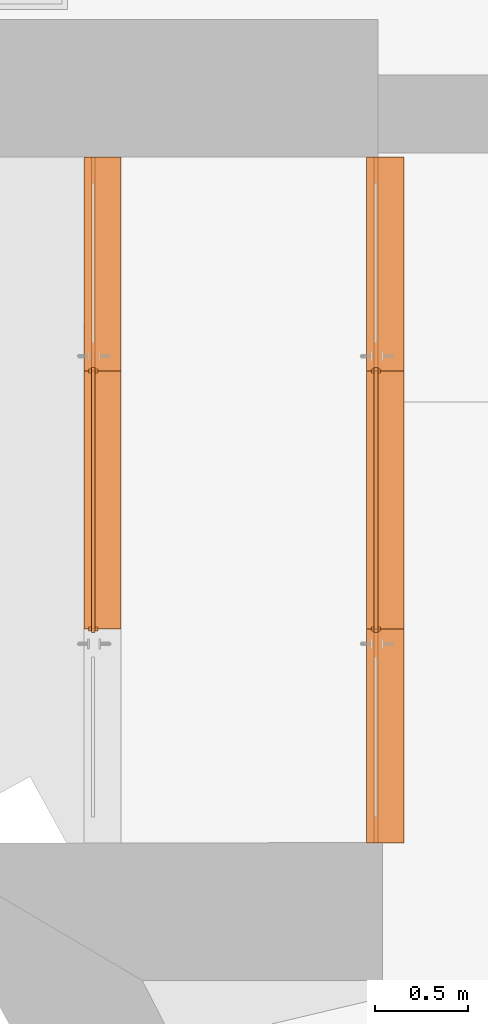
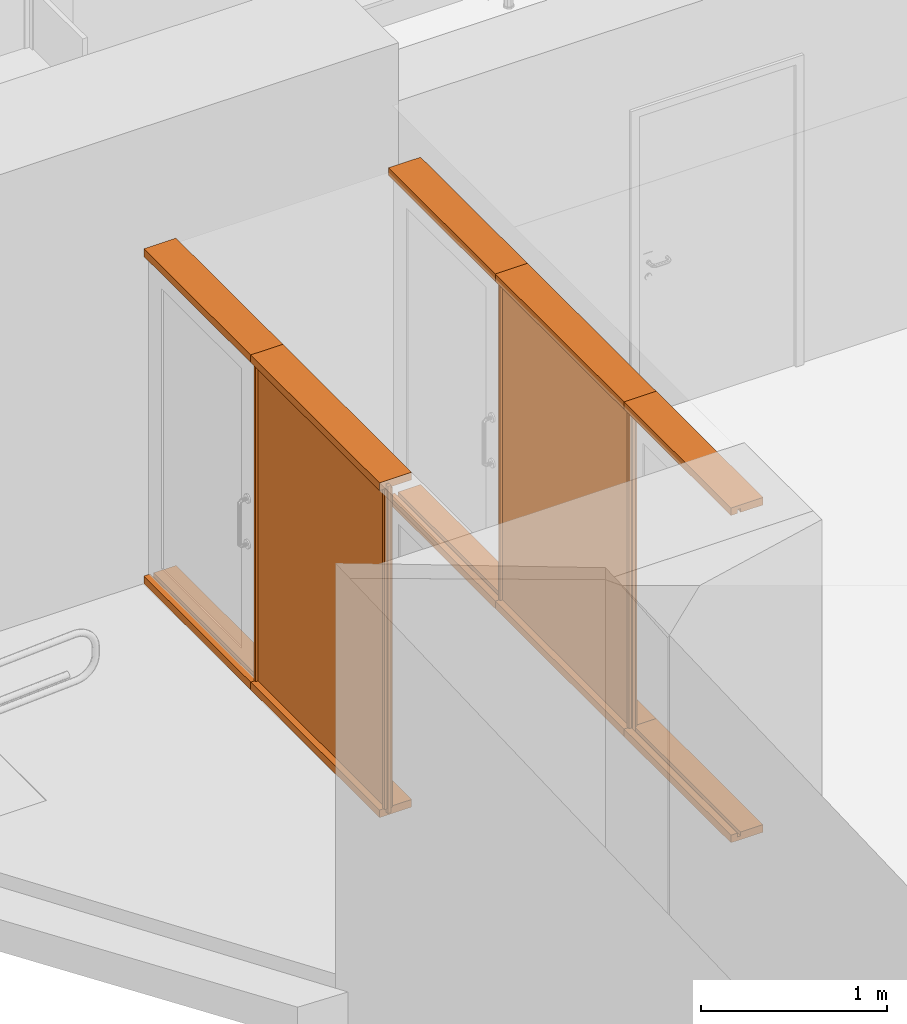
# One storey, part 116 of 127: 16 proxies, 2 elements without a shape of their own.
"""IFC2X3 building model written with IfcOpenShell, lengths in millimetres."""

from ifc_helpers import new_model, entity, si_unit, converted_unit, derived_unit, money_unit, direction, frame, origin_with_axes, place, context, subcontext, project, spatial, polyline, outline, extrude, material, material_list, type_object, element, aggregate, save


model = new_model("IFC2X3")

# Units and contexts
model_context = context("Model", 3, precision=1e-05, world=origin_with_axes(), true_north=direction((0.0, 1.0)))
body_context = subcontext(model_context, "Body", "Model", "MODEL_VIEW")
ifc_project = project(units=[si_unit("LENGTHUNIT", "METRE", prefix="MILLI"), si_unit("AREAUNIT", "SQUARE_METRE"), si_unit("VOLUMEUNIT", "CUBIC_METRE"), converted_unit("PLANEANGLEUNIT", "DEGREE", entity("IfcPlaneAngleMeasure", 0.0174532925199), si_unit("PLANEANGLEUNIT", "RADIAN"), dimensions=[0, 0, 0, 0, 0, 0, 0]), si_unit("SOLIDANGLEUNIT", "STERADIAN"), money_unit("EUR"), converted_unit("TIMEUNIT", "Year", entity("IfcTimeMeasure", 31556926.0), si_unit("TIMEUNIT", "SECOND"), dimensions=[0, 0, 1, 0, 0, 0, 0]), si_unit("MASSUNIT", "GRAM", prefix="KILO"), si_unit("THERMODYNAMICTEMPERATUREUNIT", "DEGREE_CELSIUS"), si_unit("LUMINOUSINTENSITYUNIT", "LUMEN"), si_unit("ENERGYUNIT", "JOULE", prefix="MEGA"), derived_unit("THERMALCONDUCTANCEUNIT", [(si_unit("POWERUNIT", "WATT"), 1), (si_unit("LENGTHUNIT", "METRE"), -1), (si_unit("THERMODYNAMICTEMPERATUREUNIT", "KELVIN"), -1)]), derived_unit("SPECIFICHEATCAPACITYUNIT", [(si_unit("ENERGYUNIT", "JOULE"), 1), (si_unit("MASSUNIT", "GRAM", prefix="KILO"), -1), (si_unit("THERMODYNAMICTEMPERATUREUNIT", "KELVIN"), -1)]), derived_unit("MASSDENSITYUNIT", [(si_unit("MASSUNIT", "GRAM", prefix="KILO"), 1), (si_unit("VOLUMEUNIT", "CUBIC_METRE"), -1)])], contexts=[model_context])

# Site, building, storey
site_placement = place(None, origin_with_axes())
site = spatial("IfcSite", under=ifc_project, at=site_placement, Name="Site", CompositionType="ELEMENT")
building_placement = place(site_placement, origin_with_axes())
building = spatial("IfcBuilding", under=site, at=building_placement, Name="Building", CompositionType="ELEMENT")
storey_placement = place(building_placement, origin_with_axes())
storey = spatial("IfcBuildingStorey", under=building, at=storey_placement, Name="1 KORRUS", CompositionType="ELEMENT", Elevation=0.0)

# Curtain wall, proxy
curtain_wall_type_1 = type_object("IfcCurtainWallType", Name="SU-1", PredefinedType="NOTDEFINED")
curtain_wall_1_placement = place(storey_placement, frame((6971.7658044, 65433.451484, 25.0), z_axis=(0.0, 0.0, 1.0), x_axis=(1.0, 0.0, 0.0)))
curtain_wall_1 = element("IfcCurtainWall", 1, at=curtain_wall_1_placement, inside=storey, type_object=curtain_wall_type_1, Name="Siseuks")
ifc_material_1 = material(Name="Klaas (1)")
building_element_proxy_type_1 = type_object("IfcBuildingElementProxyType", Name="Panel-Main-004", PredefinedType="NOTDEFINED")
proxy_1_placement = place(curtain_wall_1_placement, frame((0.0, 0.0, 1075.0), z_axis=(0.0, 0.0, 1.0), x_axis=(0.0, -1.0, 0.0)))
proxy_1 = element("IfcBuildingElementProxy", 2, at=proxy_1_placement, type_object=building_element_proxy_type_1, material=ifc_material_1, Name="Klaas (1);  Objekti nimi: Built-in CW Panel", context=body_context, shape_type="SweptSolid", body=[
    extrude(outline(polyline([(-693.304046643, -1080.0), (693.30402145, -1080.0), (693.30402145, -1075.00001431), (713.304028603, -1075.00001431), (713.304028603, 1075.00001431), (693.30402145, 1074.99998212), (693.30402145, 1080.0), (-693.304046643, 1080.0), (-693.304046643, 1074.99998212), (-713.304053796, 1074.99998212), (-713.304053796, -1075.00001431), (-693.304046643, -1075.00001431), (-693.304046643, -1080.0)])), frame((0.0, -9.99999999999, 0.0), z_axis=(0.0, 1.0, 0.0), x_axis=(1.0, 0.0, 0.0)), (0.0, 0.0, 1.0), 20.0),
])

curtain_wall_type_2 = type_object("IfcCurtainWallType", Name="VU-1", PredefinedType="NOTDEFINED")
curtain_wall_2_placement = place(storey_placement, frame((5451.67242151, 65433.4489779, 25.0), z_axis=(0.0, 0.0, 1.0), x_axis=(1.0, 0.0, 0.0)))
curtain_wall_2 = element("IfcCurtainWall", 3, at=curtain_wall_2_placement, inside=storey, type_object=curtain_wall_type_2, Name="Välisuks")
proxy_2_placement = place(curtain_wall_2_placement, frame((0.0, 0.0, 1075.0), z_axis=(0.0, 0.0, 1.0), x_axis=(0.0, -1.0, 0.0)))
proxy_2 = element("IfcBuildingElementProxy", 4, at=proxy_2_placement, type_object=building_element_proxy_type_1, material=ifc_material_1, Name="Klaas (1);  Objekti nimi: Built-in CW Panel", context=body_context, shape_type="SweptSolid", body=[
    extrude(outline(polyline([(-693.304046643, -1080.0), (693.30402145, -1080.0), (693.30402145, -1075.00001431), (713.304028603, -1075.00001431), (713.304028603, 1075.00001431), (693.30402145, 1074.99998212), (693.30402145, 1080.0), (-693.304046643, 1080.0), (-693.304046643, 1074.99998212), (-713.304053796, 1074.99998212), (-713.304053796, -1075.00001431), (-693.304046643, -1075.00001431), (-693.304046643, -1080.0)])), frame((0.0, -9.99999999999, 0.0), z_axis=(0.0, 1.0, 0.0), x_axis=(1.0, 0.0, 0.0)), (0.0, 0.0, 1.0), 20.0),
])

# Proxy
ifc_material_2 = material(Name="Alumiinium (1)")
ifc_material_list = material_list([ifc_material_2, ifc_material_2])
building_element_proxy_type_2 = type_object("IfcBuildingElementProxyType", Name="Frame-Mll-040", PredefinedType="NOTDEFINED")
proxy_3_placement = place(curtain_wall_1_placement, frame((0.0, -693.304028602, 0.0), z_axis=(0.0, 0.0, 1.0), x_axis=(0.0, -1.0, 0.0)))
proxy_3 = element("IfcBuildingElementProxy", 5, at=proxy_3_placement, type_object=building_element_proxy_type_2, material=ifc_material_list, Name="Alumiinium (1);  Objekti nimi: Built-in Frame", context=body_context, shape_type="SweptSolid", body=[
    extrude(outline(polyline([(9.99999999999, -10.0000000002), (25.0, -10.0000000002), (25.0, 10.0000000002), (9.99999999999, 10.0000000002), (9.99999999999, -10.0000000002)])), frame((0.0, 0.0, 25.0), z_axis=(0.0, 0.0, 1.0), x_axis=(0.0, 1.0, 0.0)), (0.0, 0.0, 1.0), 2100.0),
    extrude(outline(polyline([(-9.99999999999, 10.0000000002), (-25.0, 10.0000000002), (-25.0, -10.0000000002), (-9.99999999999, -10.0000000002), (-9.99999999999, 10.0000000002)])), frame((0.0, 0.0, 25.0), z_axis=(0.0, 0.0, 1.0), x_axis=(0.0, 1.0, 0.0)), (0.0, 0.0, 1.0), 2100.0),
])

proxy_4_placement = place(curtain_wall_1_placement, frame((0.0, 693.304028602, 0.0), z_axis=(0.0, 0.0, 1.0), x_axis=(0.0, -1.0, 0.0)))
proxy_4 = element("IfcBuildingElementProxy", 6, at=proxy_4_placement, type_object=building_element_proxy_type_2, material=ifc_material_list, Name="Alumiinium (1);  Objekti nimi: Built-in Frame", context=body_context, shape_type="SweptSolid", body=[
    extrude(outline(polyline([(9.99999999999, -10.0000000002), (25.0, -10.0000000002), (25.0, 10.0000000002), (9.99999999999, 10.0000000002), (9.99999999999, -10.0000000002)])), frame((0.0, 0.0, 25.0), z_axis=(0.0, 0.0, 1.0), x_axis=(0.0, 1.0, 0.0)), (0.0, 0.0, 1.0), 2100.0),
    extrude(outline(polyline([(-9.99999999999, 10.0000000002), (-25.0, 10.0000000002), (-25.0, -10.0000000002), (-9.99999999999, -10.0000000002), (-9.99999999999, 10.0000000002)])), frame((0.0, 0.0, 25.0), z_axis=(0.0, 0.0, 1.0), x_axis=(0.0, 1.0, 0.0)), (0.0, 0.0, 1.0), 2100.0),
])

proxy_5_placement = place(curtain_wall_2_placement, frame((0.0, 693.304028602, 0.0), z_axis=(0.0, 0.0, 1.0), x_axis=(0.0, -1.0, 0.0)))
proxy_5 = element("IfcBuildingElementProxy", 7, at=proxy_5_placement, type_object=building_element_proxy_type_2, material=ifc_material_list, Name="Alumiinium (1);  Objekti nimi: Built-in Frame", context=body_context, shape_type="SweptSolid", body=[
    extrude(outline(polyline([(9.99999999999, -10.0000000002), (25.0, -10.0000000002), (25.0, 10.0000000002), (9.99999999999, 10.0000000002), (9.99999999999, -10.0000000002)])), frame((0.0, 0.0, 25.0), z_axis=(0.0, 0.0, 1.0), x_axis=(0.0, 1.0, 0.0)), (0.0, 0.0, 1.0), 2100.0),
    extrude(outline(polyline([(-9.99999999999, 10.0000000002), (-25.0, 10.0000000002), (-25.0, -10.0000000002), (-9.99999999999, -10.0000000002), (-9.99999999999, 10.0000000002)])), frame((0.0, 0.0, 25.0), z_axis=(0.0, 0.0, 1.0), x_axis=(0.0, 1.0, 0.0)), (0.0, 0.0, 1.0), 2100.0),
])

proxy_6_placement = place(curtain_wall_2_placement, frame((0.0, -693.304028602, 0.0), z_axis=(0.0, 0.0, 1.0), x_axis=(0.0, -1.0, 0.0)))
proxy_6 = element("IfcBuildingElementProxy", 8, at=proxy_6_placement, type_object=building_element_proxy_type_2, material=ifc_material_list, Name="Alumiinium (1);  Objekti nimi: Built-in Frame", context=body_context, shape_type="SweptSolid", body=[
    extrude(outline(polyline([(9.99999999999, -10.0000000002), (25.0, -10.0000000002), (25.0, 10.0000000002), (9.99999999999, 10.0000000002), (9.99999999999, -10.0000000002)])), frame((0.0, 0.0, 25.0), z_axis=(0.0, 0.0, 1.0), x_axis=(0.0, 1.0, 0.0)), (0.0, 0.0, 1.0), 2100.0),
    extrude(outline(polyline([(-9.99999999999, 10.0000000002), (-25.0, 10.0000000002), (-25.0, -10.0000000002), (-9.99999999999, -10.0000000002), (-9.99999999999, 10.0000000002)])), frame((0.0, 0.0, 25.0), z_axis=(0.0, 0.0, 1.0), x_axis=(0.0, 1.0, 0.0)), (0.0, 0.0, 1.0), 2100.0),
])

building_element_proxy_type_3 = type_object("IfcBuildingElementProxyType", Name="Frame-Bnd-142", PredefinedType="NOTDEFINED")
proxy_7_placement = place(curtain_wall_1_placement, frame((0.0, -1843.3040286, 0.0), z_axis=(0.0, 1.0, 0.0), x_axis=(0.0, 0.0, 1.0)))
proxy_7 = element("IfcBuildingElementProxy", 9, at=proxy_7_placement, type_object=building_element_proxy_type_3, material=ifc_material_2, Name="Alumiinium (1);  Objekti nimi: Built-in Frame", context=body_context, shape_type="SweptSolid", body=[
    extrude(outline(polyline([(9.99999999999, 0.0), (9.99999999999, -25.0), (150.0, -25.0), (150.0, 25.0), (-50.0, 25.0), (-50.0, -25.0), (-9.99999999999, -25.0), (-9.99999999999, 0.0), (9.99999999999, 0.0)])), frame((0.0, 0.0, 0.0), z_axis=(0.0, 0.0, 1.0), x_axis=(0.0, 1.0, 0.0)), (0.0, 0.0, 1.0), 1150.0),
])

proxy_8_placement = place(curtain_wall_1_placement, frame((0.0, 693.304028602, 2150.0), z_axis=(0.0, 1.0, 0.0), x_axis=(0.0, 0.0, 1.0)))
proxy_8 = element("IfcBuildingElementProxy", 10, at=proxy_8_placement, type_object=building_element_proxy_type_3, material=ifc_material_2, Name="Alumiinium (1);  Objekti nimi: Built-in Frame", context=body_context, shape_type="SweptSolid", body=[
    extrude(outline(polyline([(9.99999999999, 0.0), (-9.99999999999, 0.0), (-9.99999999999, 25.0), (-50.0, 25.0), (-50.0, -25.0), (150.0, -25.0), (150.0, 25.0), (9.99999999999, 25.0), (9.99999999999, 0.0)])), frame((0.0, 0.0, 0.0), z_axis=(0.0, 0.0, 1.0), x_axis=(0.0, 1.0, 0.0)), (0.0, 0.0, 1.0), 1150.0),
])

proxy_9_placement = place(curtain_wall_1_placement, frame((0.0, -693.304028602, 0.0), z_axis=(0.0, 1.0, 0.0), x_axis=(0.0, 0.0, 1.0)))
proxy_9 = element("IfcBuildingElementProxy", 11, at=proxy_9_placement, type_object=building_element_proxy_type_3, material=ifc_material_2, Name="Alumiinium (1);  Objekti nimi: Built-in Frame", context=body_context, shape_type="SweptSolid", body=[
    extrude(outline(polyline([(9.99999999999, 0.0), (9.99999999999, -25.0), (150.0, -25.0), (150.0, 25.0), (-50.0, 25.0), (-50.0, -25.0), (-9.99999999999, -25.0), (-9.99999999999, 0.0), (9.99999999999, 0.0)])), frame((0.0, 0.0, 0.0), z_axis=(0.0, 0.0, 1.0), x_axis=(0.0, 1.0, 0.0)), (0.0, 0.0, 1.0), 1386.6080572),
])

proxy_10_placement = place(curtain_wall_1_placement, frame((0.0, -693.304028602, 2150.0), z_axis=(0.0, 1.0, 0.0), x_axis=(0.0, 0.0, 1.0)))
proxy_10 = element("IfcBuildingElementProxy", 12, at=proxy_10_placement, type_object=building_element_proxy_type_3, material=ifc_material_2, Name="Alumiinium (1);  Objekti nimi: Built-in Frame", context=body_context, shape_type="SweptSolid", body=[
    extrude(outline(polyline([(9.99999999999, 0.0), (-9.99999999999, 0.0), (-9.99999999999, 25.0), (-50.0, 25.0), (-50.0, -25.0), (150.0, -25.0), (150.0, 25.0), (9.99999999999, 25.0), (9.99999999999, 0.0)])), frame((0.0, 0.0, 0.0), z_axis=(0.0, 0.0, 1.0), x_axis=(0.0, 1.0, 0.0)), (0.0, 0.0, 1.0), 1386.6080572),
])

proxy_11_placement = place(curtain_wall_1_placement, frame((0.0, 693.304028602, 0.0), z_axis=(0.0, 1.0, 0.0), x_axis=(0.0, 0.0, 1.0)))
proxy_11 = element("IfcBuildingElementProxy", 13, at=proxy_11_placement, type_object=building_element_proxy_type_3, material=ifc_material_2, Name="Alumiinium (1);  Objekti nimi: Built-in Frame", context=body_context, shape_type="SweptSolid", body=[
    extrude(outline(polyline([(9.99999999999, 0.0), (9.99999999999, -25.0), (150.0, -25.0), (150.0, 25.0), (-50.0, 25.0), (-50.0, -25.0), (-9.99999999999, -25.0), (-9.99999999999, 0.0), (9.99999999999, 0.0)])), frame((0.0, 0.0, 0.0), z_axis=(0.0, 0.0, 1.0), x_axis=(0.0, 1.0, 0.0)), (0.0, 0.0, 1.0), 1150.0),
])

proxy_12_placement = place(curtain_wall_1_placement, frame((0.0, -1843.3040286, 2150.0), z_axis=(0.0, 1.0, 0.0), x_axis=(0.0, 0.0, 1.0)))
proxy_12 = element("IfcBuildingElementProxy", 14, at=proxy_12_placement, type_object=building_element_proxy_type_3, material=ifc_material_2, Name="Alumiinium (1);  Objekti nimi: Built-in Frame", context=body_context, shape_type="SweptSolid", body=[
    extrude(outline(polyline([(9.99999999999, 0.0), (-9.99999999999, 0.0), (-9.99999999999, 25.0), (-50.0, 25.0), (-50.0, -25.0), (150.0, -25.0), (150.0, 25.0), (9.99999999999, 25.0), (9.99999999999, 0.0)])), frame((0.0, 0.0, 0.0), z_axis=(0.0, 0.0, 1.0), x_axis=(0.0, 1.0, 0.0)), (0.0, 0.0, 1.0), 1150.0),
])

aggregate(curtain_wall_1, [proxy_1, proxy_7, proxy_8, proxy_9, proxy_10, proxy_3, proxy_11, proxy_4, proxy_12])

building_element_proxy_type_4 = type_object("IfcBuildingElementProxyType", Name="Frame-Bnd-115", PredefinedType="NOTDEFINED")
proxy_13_placement = place(curtain_wall_2_placement, frame((0.0, 693.304028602, 2150.0), z_axis=(0.0, 1.0, 0.0), x_axis=(0.0, 0.0, 1.0)))
proxy_13 = element("IfcBuildingElementProxy", 15, at=proxy_13_placement, type_object=building_element_proxy_type_4, material=ifc_material_2, Name="Alumiinium (1);  Objekti nimi: Built-in Frame", context=body_context, shape_type="SweptSolid", body=[
    extrude(outline(polyline([(9.99999999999, 0.0), (-9.99999999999, 0.0), (-9.99999999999, 25.0), (-50.0, 25.0), (-50.0, -25.0), (150.0, -25.0), (150.0, 25.0), (9.99999999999, 25.0), (9.99999999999, 0.0)])), frame((0.0, 0.0, 0.0), z_axis=(0.0, 0.0, 1.0), x_axis=(0.0, 1.0, 0.0)), (0.0, 0.0, 1.0), 1150.0),
])

building_element_proxy_type_5 = type_object("IfcBuildingElementProxyType", Name="Frame-Bnd-112", PredefinedType="NOTDEFINED")
proxy_14_placement = place(curtain_wall_2_placement, frame((0.0, -693.304028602, 0.0), z_axis=(0.0, 1.0, 0.0), x_axis=(0.0, 0.0, 1.0)))
proxy_14 = element("IfcBuildingElementProxy", 16, at=proxy_14_placement, type_object=building_element_proxy_type_5, material=ifc_material_2, Name="Alumiinium (1);  Objekti nimi: Built-in Frame", context=body_context, shape_type="SweptSolid", body=[
    extrude(outline(polyline([(9.99999999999, 0.0), (9.99999999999, -25.0), (150.0, -25.0), (150.0, 25.0), (-50.0, 25.0), (-50.0, -25.0), (-9.99999999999, -25.0), (-9.99999999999, 0.0), (9.99999999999, 0.0)])), frame((0.0, 0.0, 0.0), z_axis=(0.0, 0.0, 1.0), x_axis=(0.0, 1.0, 0.0)), (0.0, 0.0, 1.0), 1386.6080572),
])

building_element_proxy_type_6 = type_object("IfcBuildingElementProxyType", Name="Frame-Bnd-116", PredefinedType="NOTDEFINED")
proxy_15_placement = place(curtain_wall_2_placement, frame((0.0, -693.304028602, 2150.0), z_axis=(0.0, 1.0, 0.0), x_axis=(0.0, 0.0, 1.0)))
proxy_15 = element("IfcBuildingElementProxy", 17, at=proxy_15_placement, type_object=building_element_proxy_type_6, material=ifc_material_2, Name="Alumiinium (1);  Objekti nimi: Built-in Frame", context=body_context, shape_type="SweptSolid", body=[
    extrude(outline(polyline([(9.99999999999, 0.0), (-9.99999999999, 0.0), (-9.99999999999, 25.0), (-50.0, 25.0), (-50.0, -25.0), (150.0, -25.0), (150.0, 25.0), (9.99999999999, 25.0), (9.99999999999, 0.0)])), frame((0.0, 0.0, 0.0), z_axis=(0.0, 0.0, 1.0), x_axis=(0.0, 1.0, 0.0)), (0.0, 0.0, 1.0), 1386.6080572),
])

building_element_proxy_type_7 = type_object("IfcBuildingElementProxyType", Name="Frame-Bnd-113", PredefinedType="NOTDEFINED")
proxy_16_placement = place(curtain_wall_2_placement, frame((0.0, 693.304028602, 0.0), z_axis=(0.0, 1.0, 0.0), x_axis=(0.0, 0.0, 1.0)))
proxy_16 = element("IfcBuildingElementProxy", 18, at=proxy_16_placement, type_object=building_element_proxy_type_7, material=ifc_material_2, Name="Alumiinium (1);  Objekti nimi: Built-in Frame", context=body_context, shape_type="SweptSolid", body=[
    extrude(outline(polyline([(9.99999999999, 0.0), (9.99999999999, -25.0), (150.0, -25.0), (150.0, 25.0), (-50.0, 25.0), (-50.0, -25.0), (-9.99999999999, -25.0), (-9.99999999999, 0.0), (9.99999999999, 0.0)])), frame((0.0, 0.0, 0.0), z_axis=(0.0, 0.0, 1.0), x_axis=(0.0, 1.0, 0.0)), (0.0, 0.0, 1.0), 1150.0),
])

aggregate(curtain_wall_2, [proxy_2, proxy_13, proxy_14, proxy_15, proxy_16, proxy_5, proxy_6])

save(model, "model.ifc")
